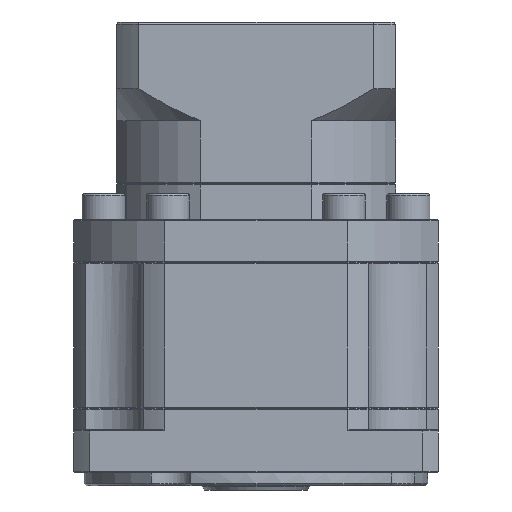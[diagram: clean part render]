
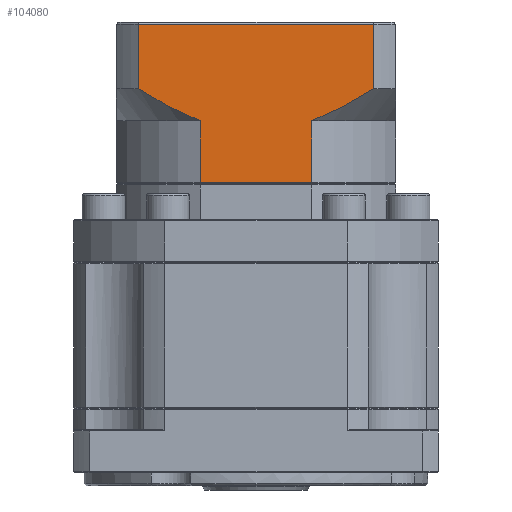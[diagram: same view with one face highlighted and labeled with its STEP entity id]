
A CAD part, front view. The second image highlights one B-rep face of the part: STEP entity #104080.
In plain terms, the highlighted planar face has unit normal (0, -1, 0).
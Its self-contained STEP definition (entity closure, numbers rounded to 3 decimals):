
#3937 = CARTESIAN_POINT ( 'NONE',  ( -86.744, -0.404, -5.161 ) ) ;
#4726 = CARTESIAN_POINT ( 'NONE',  ( -35.022, -0.404, 15.094 ) ) ;
#5782 = ORIENTED_EDGE ( 'NONE', *, *, #31912, .F. ) ;
#6442 = CARTESIAN_POINT ( 'NONE',  ( -40.136, -0.404, -0.406 ) ) ;
#8292 = CARTESIAN_POINT ( 'NONE',  ( -54.532, -0.404, -7.906 ) ) ;
#10862 = EDGE_LOOP ( 'NONE', ( #28477, #61691, #25438, #5782, #76250, #97939, #78612, #11903 ) ) ;
#11903 = ORIENTED_EDGE ( 'NONE', *, *, #96329, .F. ) ;
#12427 = CARTESIAN_POINT ( 'NONE',  ( -92.64, -0.404, -1.868 ) ) ;
#13201 = DIRECTION ( 'NONE',  ( -1., 0., 0. ) ) ;
#15107 = VERTEX_POINT ( 'NONE', #6442 ) ;
#15829 = CARTESIAN_POINT ( 'NONE',  ( -54.532, -0.404, -7.906 ) ) ;
#17205 = LINE ( 'NONE', #82305, #39596 ) ;
#18319 = VERTEX_POINT ( 'NONE', #52243 ) ;
#19307 = CARTESIAN_POINT ( 'NONE',  ( -94.909, -0.404, 14.594 ) ) ;
#20507 = CARTESIAN_POINT ( 'NONE',  ( -81.794, -0.404, -7.415 ) ) ;
#21284 = PLANE ( 'NONE',  #78264 ) ;
#22450 = CARTESIAN_POINT ( 'NONE',  ( -80.513, -0.404, -22.317 ) ) ;
#23367 = DIRECTION ( 'NONE',  ( 0., 0., 1. ) ) ;
#24814 = CARTESIAN_POINT ( 'NONE',  ( -40.136, -0.404, -0.406 ) ) ;
#25438 = ORIENTED_EDGE ( 'NONE', *, *, #69660, .F. ) ;
#28477 = ORIENTED_EDGE ( 'NONE', *, *, #53427, .F. ) ;
#28968 = CARTESIAN_POINT ( 'NONE',  ( -81.155, -0.404, -7.667 ) ) ;
#29772 = DIRECTION ( 'NONE',  ( -1., 0., 0. ) ) ;
#31912 = EDGE_CURVE ( 'NONE', #93000, #84012, #65137, .T. ) ;
#33117 = LINE ( 'NONE', #15829, #77913 ) ;
#35545 = VERTEX_POINT ( 'NONE', #102867 ) ;
#36337 = CARTESIAN_POINT ( 'NONE',  ( -80.513, -0.404, -7.906 ) ) ;
#39596 = VECTOR ( 'NONE', #23367, 1000. ) ;
#41727 = CARTESIAN_POINT ( 'NONE',  ( -42.426, -0.404, -1.855 ) ) ;
#42112 = DIRECTION ( 'NONE',  ( 0., 0., 1. ) ) ;
#45888 = CARTESIAN_POINT ( 'NONE',  ( -83.055, -0.404, -6.889 ) ) ;
#46561 = CARTESIAN_POINT ( 'NONE',  ( -35.022, -0.404, -22.317 ) ) ;
#49256 = VERTEX_POINT ( 'NONE', #103909 ) ;
#50180 = CARTESIAN_POINT ( 'NONE',  ( -45.948, -0.404, -3.91 ) ) ;
#50566 = CARTESIAN_POINT ( 'NONE',  ( -94.909, -0.404, -2.906 ) ) ;
#50702 = VECTOR ( 'NONE', #29772, 1000. ) ;
#51538 = EDGE_CURVE ( 'NONE', #49256, #18319, #33117, .T. ) ;
#52243 = CARTESIAN_POINT ( 'NONE',  ( -54.532, -0.404, -22.317 ) ) ;
#53427 = EDGE_CURVE ( 'NONE', #35545, #15107, #90359, .T. ) ;
#54346 = CARTESIAN_POINT ( 'NONE',  ( -85.532, -0.404, -5.766 ) ) ;
#54999 = DIRECTION ( 'NONE',  ( 1., 0., 0. ) ) ;
#56369 = VERTEX_POINT ( 'NONE', #22450 ) ;
#56404 = FACE_OUTER_BOUND ( 'NONE', #10862, .T. ) ;
#56886 = EDGE_CURVE ( 'NONE', #56369, #18319, #74017, .T. ) ;
#58702 = CARTESIAN_POINT ( 'NONE',  ( -51.993, -0.404, -6.963 ) ) ;
#61691 = ORIENTED_EDGE ( 'NONE', *, *, #65168, .T. ) ;
#62872 = CARTESIAN_POINT ( 'NONE',  ( -90.325, -0.404, -3.256 ) ) ;
#63648 = DIRECTION ( 'NONE',  ( 0., 1., 0. ) ) ;
#65137 = B_SPLINE_CURVE_WITH_KNOTS ( 'NONE', 3,
 ( #96413, #28968, #20507, #45888, #104847, #54346, #3937, #62872, #12427, #71365 ),
 .UNSPECIFIED., .F., .F.,
 ( 4, 2, 2, 2, 4 ),
 ( 0.101, 0.104, 0.106, 0.11, 0.118 ),
 .UNSPECIFIED. ) ;
#65168 = EDGE_CURVE ( 'NONE', #35545, #107350, #107421, .T. ) ;
#69660 = EDGE_CURVE ( 'NONE', #84012, #107350, #106079, .T. ) ;
#71365 = CARTESIAN_POINT ( 'NONE',  ( -94.909, -0.404, -0.406 ) ) ;
#74017 = LINE ( 'NONE', #46561, #93728 ) ;
#74756 = DIRECTION ( 'NONE',  ( 0., 0., -1. ) ) ;
#75307 = CARTESIAN_POINT ( 'NONE',  ( -41.275, -0.404, -1.139 ) ) ;
#76250 = ORIENTED_EDGE ( 'NONE', *, *, #84507, .F. ) ;
#77086 = CARTESIAN_POINT ( 'NONE',  ( -94.909, -0.404, -0.406 ) ) ;
#77913 = VECTOR ( 'NONE', #74756, 1000. ) ;
#78264 = AXIS2_PLACEMENT_3D ( 'NONE', #4726, #63648, #13201 ) ;
#78612 = ORIENTED_EDGE ( 'NONE', *, *, #51538, .F. ) ;
#79363 = DIRECTION ( 'NONE',  ( 0., 0., -1. ) ) ;
#80220 = CARTESIAN_POINT ( 'NONE',  ( -94.909, -0.404, 14.594 ) ) ;
#82305 = CARTESIAN_POINT ( 'NONE',  ( -80.513, -0.404, -7.906 ) ) ;
#84012 = VERTEX_POINT ( 'NONE', #77086 ) ;
#84507 = EDGE_CURVE ( 'NONE', #56369, #93000, #17205, .T. ) ;
#86738 = CARTESIAN_POINT ( 'NONE',  ( -40.136, -0.404, -2.906 ) ) ;
#87670 = VECTOR ( 'NONE', #79363, 1000. ) ;
#90359 = LINE ( 'NONE', #86738, #87670 ) ;
#93000 = VERTEX_POINT ( 'NONE', #36337 ) ;
#93728 = VECTOR ( 'NONE', #54999, 1000. ) ;
#96329 = EDGE_CURVE ( 'NONE', #15107, #49256, #97394, .T. ) ;
#96413 = CARTESIAN_POINT ( 'NONE',  ( -80.513, -0.404, -7.906 ) ) ;
#97394 = B_SPLINE_CURVE_WITH_KNOTS ( 'NONE', 3,
 ( #24814, #75307, #41727, #100738, #50180, #109157, #58702, #8292 ),
 .UNSPECIFIED., .F., .F.,
 ( 4, 2, 2, 4 ),
 ( 0.059, 0.063, 0.067, 0.075 ),
 .UNSPECIFIED. ) ;
#97939 = ORIENTED_EDGE ( 'NONE', *, *, #56886, .T. ) ;
#100738 = CARTESIAN_POINT ( 'NONE',  ( -44.762, -0.404, -3.24 ) ) ;
#102867 = CARTESIAN_POINT ( 'NONE',  ( -40.136, -0.404, 14.594 ) ) ;
#103485 = VECTOR ( 'NONE', #42112, 1000. ) ;
#103909 = CARTESIAN_POINT ( 'NONE',  ( -54.532, -0.404, -7.906 ) ) ;
#104080 = ADVANCED_FACE ( 'NONE', ( #56404 ), #21284, .F. ) ;
#104847 = CARTESIAN_POINT ( 'NONE',  ( -83.679, -0.404, -6.616 ) ) ;
#106079 = LINE ( 'NONE', #50566, #103485 ) ;
#107350 = VERTEX_POINT ( 'NONE', #19307 ) ;
#107421 = LINE ( 'NONE', #80220, #50702 ) ;
#109157 = CARTESIAN_POINT ( 'NONE',  ( -49.542, -0.404, -5.819 ) ) ;
